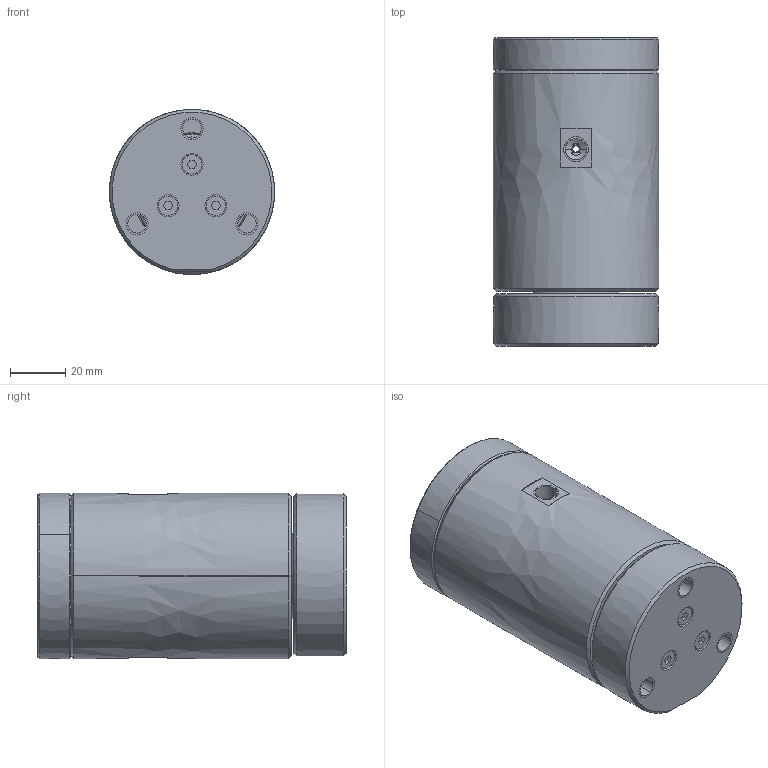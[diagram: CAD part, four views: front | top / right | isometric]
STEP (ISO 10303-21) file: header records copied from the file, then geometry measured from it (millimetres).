
FILE_DESCRIPTION((''),'2;1');
FILE_NAME('HOM001-2FDS-L1-0000_ASM','2014-01-18T',('yfs-01'),('foxconn'),'PRO/ENGINEER BY PARAMETRIC TECHNOLOGY CORPORATION, 2007230','PRO/ENGINEER BY PARAMETRIC TECHNOLOGY CORPORATION, 2007230','');
FILE_SCHEMA(('CONFIG_CONTROL_DESIGN'));
Products named in the file (1): HOM001-2FDS-L1-0000_ASM
Bounding box: 60 x 112 x 60 mm (x, y, z)
Surface area: 69621.5 mm2 (no closed solid volume)
Topology: 0 solids, 0 shells, 538 faces, 2300 edges, 2256 vertices
Faces by surface type: bspline 494, torus 44
Entity records: 51340 total; most frequent: CARTESIAN_POINT 30011, DIRECTION 3581, TRIMMED_CURVE 2881, VECTOR 2269, LINE 2269, DEFINITIONAL_REPRESENTATION 2238, PCURVE 2238, COMPOSITE_CURVE_SEGMENT 2238
